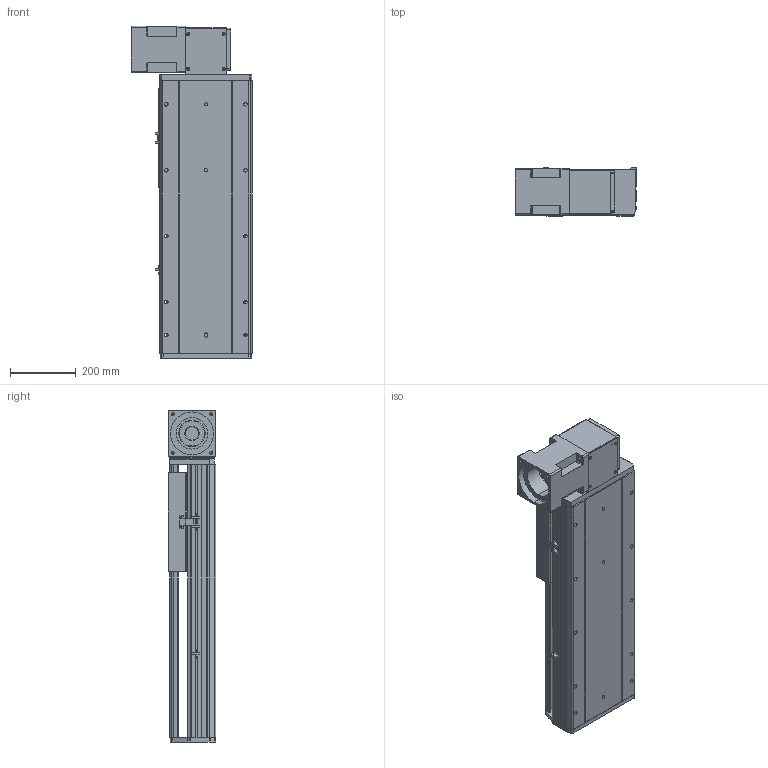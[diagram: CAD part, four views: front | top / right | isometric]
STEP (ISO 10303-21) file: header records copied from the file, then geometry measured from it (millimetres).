
FILE_DESCRIPTION (( 'STEP AP214' ), '1' );
FILE_NAME ('RTB28R-XX-400-BR-M100-XX-C4.STEP', '2025-12-22T01:07:14', ( '' ), ( '' ), 'SwSTEP 2.0', 'SolidWorks 2018', '' );
FILE_SCHEMA (( 'AUTOMOTIVE_DESIGN' ));
Length unit declared in the file: millimetre
Products named in the file (4): RTB28S-GY-004^RTB28R-XX-XX-BR-M100-XX-C4; RTB28R-XX-400-BR-M100-XX-C4; RTB28S-GY-008^RTB28R-XX-XX-BR-M100-XX-C4; RTB28S-GY-011^RTB28R-XX-XX-BR-M100-XX-C4
Assembly tree (3 placements, depth 2):
  RTB28R-XX-400-BR-M100-XX-C4
    RTB28S-GY-011^RTB28R-XX-XX-BR-M100-XX-C4
    RTB28S-GY-004^RTB28R-XX-XX-BR-M100-XX-C4
    RTB28S-GY-008^RTB28R-XX-XX-BR-M100-XX-C4
Bounding box: 370 x 145 x 1007 mm (x, y, z)
Volume: 20162459.2 mm3; surface area: 2009413.5 mm2
Topology: 3 solids, 4 shells, 958 faces, 2520 edges, 1616 vertices
Faces by surface type: plane 450, cylinder 337, bspline 87, cone 80, torus 4
Entity records: 40744 total; most frequent: CARTESIAN_POINT 10795, ORIENTED_EDGE 4976, DIRECTION 4800, EDGE_CURVE 2488, AXIS2_PLACEMENT_3D 1629, VERTEX_POINT 1616, LINE 1542, VECTOR 1542
